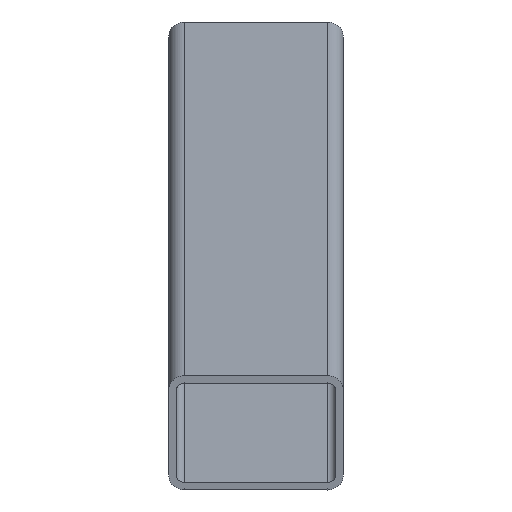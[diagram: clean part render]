
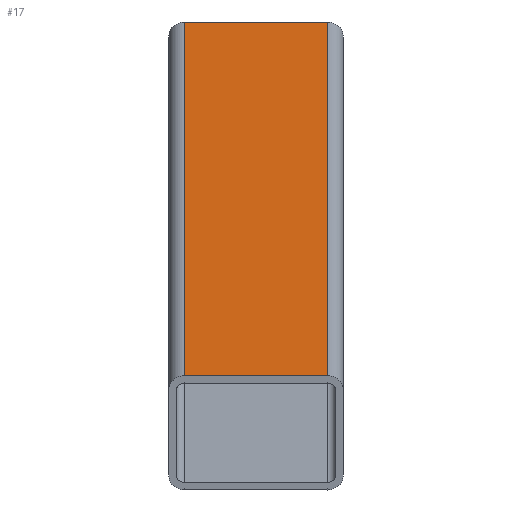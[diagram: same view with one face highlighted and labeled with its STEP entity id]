
A CAD part, left-side view. The second image highlights one B-rep face of the part: STEP entity #17.
In plain terms, the highlighted planar face has unit normal (-0.342, 0, 0.94).
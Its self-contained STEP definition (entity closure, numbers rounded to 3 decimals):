
#17 = ADVANCED_FACE('',(#18),#32,.T.);
#18 = FACE_BOUND('',#19,.T.);
#19 = EDGE_LOOP('',(#20,#55,#83,#111));
#20 = ORIENTED_EDGE('',*,*,#21,.T.);
#21 = EDGE_CURVE('',#22,#24,#26,.T.);
#22 = VERTEX_POINT('',#23);
#23 = CARTESIAN_POINT('',(-1676.963,-70.991,
    298.057));
#24 = VERTEX_POINT('',#25);
#25 = CARTESIAN_POINT('',(-676.195,-70.991,
    662.307));
#26 = SURFACE_CURVE('',#27,(#31,#43),.PCURVE_S1.);
#27 = LINE('',#28,#29);
#28 = CARTESIAN_POINT('',(-1690.809,-70.991,
    293.017));
#29 = VECTOR('',#30,1.);
#30 = DIRECTION('',(0.94,0.,0.342)
  );
#31 = PCURVE('',#32,#37);
#32 = PLANE('',#33);
#33 = AXIS2_PLACEMENT_3D('',#34,#35,#36);
#34 = CARTESIAN_POINT('',(-1690.809,77.009,
    293.017));
#35 = DIRECTION('',(-0.342,0.,0.94)
  );
#36 = DIRECTION('',(0.,-1.,0.));
#37 = DEFINITIONAL_REPRESENTATION('',(#38),#42);
#38 = LINE('',#39,#40);
#39 = CARTESIAN_POINT('',(148.,0.));
#40 = VECTOR('',#41,1.);
#41 = DIRECTION('',(0.,1.));
#42 = ( GEOMETRIC_REPRESENTATION_CONTEXT(2) 
PARAMETRIC_REPRESENTATION_CONTEXT() REPRESENTATION_CONTEXT('2D SPACE',''
  ) );
#43 = PCURVE('',#44,#49);
#44 = CYLINDRICAL_SURFACE('',#45,16.);
#45 = AXIS2_PLACEMENT_3D('',#46,#47,#48);
#46 = CARTESIAN_POINT('',(-1178.03,-70.991,
    462.627));
#47 = DIRECTION('',(0.94,0.,0.342)
  );
#48 = DIRECTION('',(0.342,0.,-0.94)
  );
#49 = DEFINITIONAL_REPRESENTATION('',(#50),#54);
#50 = LINE('',#51,#52);
#51 = CARTESIAN_POINT('',(3.142,-539.865));
#52 = VECTOR('',#53,1.);
#53 = DIRECTION('',(0.,1.));
#54 = ( GEOMETRIC_REPRESENTATION_CONTEXT(2) 
PARAMETRIC_REPRESENTATION_CONTEXT() REPRESENTATION_CONTEXT('2D SPACE',''
  ) );
#55 = ORIENTED_EDGE('',*,*,#56,.T.);
#56 = EDGE_CURVE('',#24,#57,#59,.T.);
#57 = VERTEX_POINT('',#58);
#58 = CARTESIAN_POINT('',(-676.195,77.009,
    662.307));
#59 = SURFACE_CURVE('',#60,(#64,#71),.PCURVE_S1.);
#60 = LINE('',#61,#62);
#61 = CARTESIAN_POINT('',(-676.195,77.009,
    662.307));
#62 = VECTOR('',#63,1.);
#63 = DIRECTION('',(0.,1.,0.));
#64 = PCURVE('',#32,#65);
#65 = DEFINITIONAL_REPRESENTATION('',(#66),#70);
#66 = LINE('',#67,#68);
#67 = CARTESIAN_POINT('',(0.,1079.73));
#68 = VECTOR('',#69,1.);
#69 = DIRECTION('',(-1.,0.));
#70 = ( GEOMETRIC_REPRESENTATION_CONTEXT(2) 
PARAMETRIC_REPRESENTATION_CONTEXT() REPRESENTATION_CONTEXT('2D SPACE',''
  ) );
#71 = PCURVE('',#72,#77);
#72 = PLANE('',#73);
#73 = AXIS2_PLACEMENT_3D('',#74,#75,#76);
#74 = CARTESIAN_POINT('',(-676.195,77.009,
    662.307));
#75 = DIRECTION('',(0.974,0.,0.225)
  );
#76 = DIRECTION('',(0.225,0.,-0.974)
  );
#77 = DEFINITIONAL_REPRESENTATION('',(#78),#82);
#78 = LINE('',#79,#80);
#79 = CARTESIAN_POINT('',(0.,0.));
#80 = VECTOR('',#81,1.);
#81 = DIRECTION('',(0.,1.));
#82 = ( GEOMETRIC_REPRESENTATION_CONTEXT(2) 
PARAMETRIC_REPRESENTATION_CONTEXT() REPRESENTATION_CONTEXT('2D SPACE',''
  ) );
#83 = ORIENTED_EDGE('',*,*,#84,.F.);
#84 = EDGE_CURVE('',#85,#57,#87,.T.);
#85 = VERTEX_POINT('',#86);
#86 = CARTESIAN_POINT('',(-1676.963,77.009,
    298.057));
#87 = SURFACE_CURVE('',#88,(#92,#99),.PCURVE_S1.);
#88 = LINE('',#89,#90);
#89 = CARTESIAN_POINT('',(-1690.809,77.009,
    293.017));
#90 = VECTOR('',#91,1.);
#91 = DIRECTION('',(0.94,0.,0.342)
  );
#92 = PCURVE('',#32,#93);
#93 = DEFINITIONAL_REPRESENTATION('',(#94),#98);
#94 = LINE('',#95,#96);
#95 = CARTESIAN_POINT('',(0.,0.));
#96 = VECTOR('',#97,1.);
#97 = DIRECTION('',(0.,1.));
#98 = ( GEOMETRIC_REPRESENTATION_CONTEXT(2) 
PARAMETRIC_REPRESENTATION_CONTEXT() REPRESENTATION_CONTEXT('2D SPACE',''
  ) );
#99 = PCURVE('',#100,#105);
#100 = CYLINDRICAL_SURFACE('',#101,16.);
#101 = AXIS2_PLACEMENT_3D('',#102,#103,#104);
#102 = CARTESIAN_POINT('',(-1178.03,77.009,
    462.627));
#103 = DIRECTION('',(0.94,0.,0.342)
  );
#104 = DIRECTION('',(0.342,0.,-0.94
    ));
#105 = DEFINITIONAL_REPRESENTATION('',(#106),#110);
#106 = LINE('',#107,#108);
#107 = CARTESIAN_POINT('',(3.142,-539.865));
#108 = VECTOR('',#109,1.);
#109 = DIRECTION('',(0.,1.));
#110 = ( GEOMETRIC_REPRESENTATION_CONTEXT(2) 
PARAMETRIC_REPRESENTATION_CONTEXT() REPRESENTATION_CONTEXT('2D SPACE',''
  ) );
#111 = ORIENTED_EDGE('',*,*,#112,.T.);
#112 = EDGE_CURVE('',#85,#22,#113,.T.);
#113 = SURFACE_CURVE('',#114,(#118,#125),.PCURVE_S1.);
#114 = LINE('',#115,#116);
#115 = CARTESIAN_POINT('',(-1676.963,77.009,
    298.057));
#116 = VECTOR('',#117,1.);
#117 = DIRECTION('',(0.,-1.,0.));
#118 = PCURVE('',#32,#119);
#119 = DEFINITIONAL_REPRESENTATION('',(#120),#124);
#120 = LINE('',#121,#122);
#121 = CARTESIAN_POINT('',(0.,14.734));
#122 = VECTOR('',#123,1.);
#123 = DIRECTION('',(1.,0.));
#124 = ( GEOMETRIC_REPRESENTATION_CONTEXT(2) 
PARAMETRIC_REPRESENTATION_CONTEXT() REPRESENTATION_CONTEXT('2D SPACE',''
  ) );
#125 = PCURVE('',#126,#131);
#126 = PLANE('',#127);
#127 = AXIS2_PLACEMENT_3D('',#128,#129,#130);
#128 = CARTESIAN_POINT('',(-1649.767,77.009,
    180.254));
#129 = DIRECTION('',(0.974,0.,0.225)
  );
#130 = DIRECTION('',(0.225,0.,-0.974)
  );
#131 = DEFINITIONAL_REPRESENTATION('',(#132),#136);
#132 = LINE('',#133,#134);
#133 = CARTESIAN_POINT('',(-120.901,0.));
#134 = VECTOR('',#135,1.);
#135 = DIRECTION('',(0.,-1.));
#136 = ( GEOMETRIC_REPRESENTATION_CONTEXT(2) 
PARAMETRIC_REPRESENTATION_CONTEXT() REPRESENTATION_CONTEXT('2D SPACE',''
  ) );
